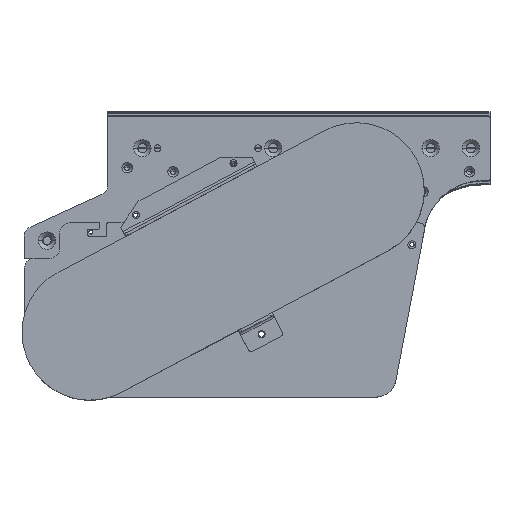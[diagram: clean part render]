
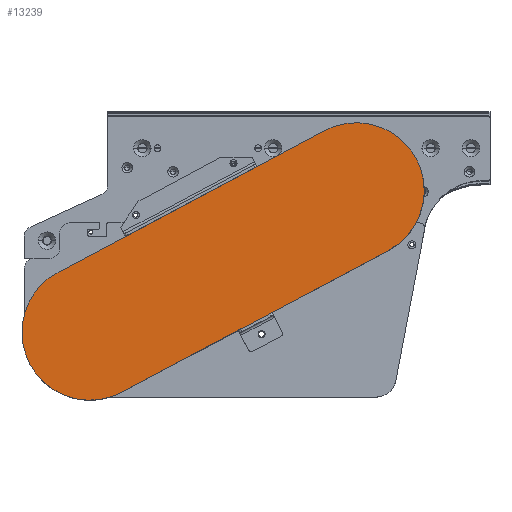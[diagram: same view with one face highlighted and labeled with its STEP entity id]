
A CAD part, top view. The second image highlights one B-rep face of the part: STEP entity #13239.
In plain terms, the highlighted planar face has unit normal (0, 0, 1).
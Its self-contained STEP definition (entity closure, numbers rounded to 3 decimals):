
#159 = DIRECTION ( 'NONE',  ( 1., 0., 0. ) ) ;
#210 = DIRECTION ( 'NONE',  ( 0.883, 0.469, 0. ) ) ;
#360 = AXIS2_PLACEMENT_3D ( 'NONE', #15853, #17673, #16259 ) ;
#672 = CARTESIAN_POINT ( 'NONE',  ( -457.305, -214.794, 103.5 ) ) ;
#697 = VERTEX_POINT ( 'NONE', #7304 ) ;
#762 = DIRECTION ( 'NONE',  ( 1., 0., 0. ) ) ;
#906 = CIRCLE ( 'NONE', #23268, 67.49 ) ;
#1394 = DIRECTION ( 'NONE',  ( 0., 0., 1. ) ) ;
#1541 = CARTESIAN_POINT ( 'NONE',  ( -164.511, 17.336, 103.5 ) ) ;
#1572 = CARTESIAN_POINT ( 'NONE',  ( -101.124, -101.857, 103.5 ) ) ;
#1636 = LINE ( 'NONE', #19727, #17132 ) ;
#2086 = ORIENTED_EDGE ( 'NONE', *, *, #2939, .T. ) ;
#2590 = DIRECTION ( 'NONE',  ( 0.469, -0.883, 0. ) ) ;
#2896 = EDGE_CURVE ( 'NONE', #6975, #697, #3456, .T. ) ;
#2914 = VERTEX_POINT ( 'NONE', #16299 ) ;
#2939 = EDGE_CURVE ( 'NONE', #5435, #6975, #7652, .T. ) ;
#3456 = CIRCLE ( 'NONE', #11780, 67.5 ) ;
#3948 = VERTEX_POINT ( 'NONE', #13203 ) ;
#4074 = CARTESIAN_POINT ( 'NONE',  ( -397.706, -183.105, 103.5 ) ) ;
#4250 = DIRECTION ( 'NONE',  ( 0., 0., 1. ) ) ;
#4625 = VERTEX_POINT ( 'NONE', #9925 ) ;
#4770 = VERTEX_POINT ( 'NONE', #1572 ) ;
#5249 = ORIENTED_EDGE ( 'NONE', *, *, #14743, .T. ) ;
#5298 = EDGE_CURVE ( 'NONE', #697, #19541, #17052, .T. ) ;
#5435 = VERTEX_POINT ( 'NONE', #21738 ) ;
#6571 = AXIS2_PLACEMENT_3D ( 'NONE', #4074, #22122, #19640 ) ;
#6760 = ORIENTED_EDGE ( 'NONE', *, *, #12718, .T. ) ;
#6975 = VERTEX_POINT ( 'NONE', #18569 ) ;
#7044 = EDGE_CURVE ( 'NONE', #2914, #4625, #21251, .T. ) ;
#7082 = VECTOR ( 'NONE', #14396, 1000. ) ;
#7163 = PLANE ( 'NONE',  #10269 ) ;
#7304 = CARTESIAN_POINT ( 'NONE',  ( -164.511, 17.336, 103.5 ) ) ;
#7652 = LINE ( 'NONE', #20017, #7082 ) ;
#8189 = ORIENTED_EDGE ( 'NONE', *, *, #18822, .T. ) ;
#8263 = AXIS2_PLACEMENT_3D ( 'NONE', #22307, #4250, #762 ) ;
#9524 = CARTESIAN_POINT ( 'NONE',  ( -397.71, -183.118, 103.5 ) ) ;
#9918 = FACE_OUTER_BOUND ( 'NONE', #22766, .T. ) ;
#9925 = CARTESIAN_POINT ( 'NONE',  ( -457.305, -214.794, 103.5 ) ) ;
#10269 = AXIS2_PLACEMENT_3D ( 'NONE', #19742, #1394, #14001 ) ;
#10297 = VERTEX_POINT ( 'NONE', #14462 ) ;
#10577 = ORIENTED_EDGE ( 'NONE', *, *, #5298, .T. ) ;
#11443 = DIRECTION ( 'NONE',  ( 1., 0., 0. ) ) ;
#11571 = ORIENTED_EDGE ( 'NONE', *, *, #7044, .T. ) ;
#11780 = AXIS2_PLACEMENT_3D ( 'NONE', #16212, #19760, #159 ) ;
#12287 = VECTOR ( 'NONE', #17678, 1000. ) ;
#12718 = EDGE_CURVE ( 'NONE', #10297, #3948, #906, .T. ) ;
#13203 = CARTESIAN_POINT ( 'NONE',  ( -366.026, -242.708, 103.5 ) ) ;
#13239 = ADVANCED_FACE ( 'NONE', ( #9918 ), #7163, .T. ) ;
#14001 = DIRECTION ( 'NONE',  ( 1., 0., 0. ) ) ;
#14309 = EDGE_CURVE ( 'NONE', #4625, #10297, #15711, .T. ) ;
#14396 = DIRECTION ( 'NONE',  ( -0.469, 0.883, 0. ) ) ;
#14438 = ORIENTED_EDGE ( 'NONE', *, *, #14309, .T. ) ;
#14462 = CARTESIAN_POINT ( 'NONE',  ( -457.3, -214.803, 103.5 ) ) ;
#14645 = DIRECTION ( 'NONE',  ( 0., 0., 1. ) ) ;
#14743 = EDGE_CURVE ( 'NONE', #3948, #4770, #1636, .T. ) ;
#14817 = ORIENTED_EDGE ( 'NONE', *, *, #2896, .T. ) ;
#14878 = CARTESIAN_POINT ( 'NONE',  ( -429.395, -123.506, 103.5 ) ) ;
#15711 = LINE ( 'NONE', #672, #16864 ) ;
#15853 = CARTESIAN_POINT ( 'NONE',  ( -132.808, -42.267, 103.5 ) ) ;
#16212 = CARTESIAN_POINT ( 'NONE',  ( -132.822, -42.263, 103.5 ) ) ;
#16259 = DIRECTION ( 'NONE',  ( 1., 0., 0. ) ) ;
#16299 = CARTESIAN_POINT ( 'NONE',  ( -465.206, -183.105, 103.5 ) ) ;
#16500 = EDGE_CURVE ( 'NONE', #19541, #2914, #16751, .T. ) ;
#16751 = CIRCLE ( 'NONE', #6571, 67.5 ) ;
#16864 = VECTOR ( 'NONE', #2590, 1000. ) ;
#17052 = LINE ( 'NONE', #1541, #12287 ) ;
#17132 = VECTOR ( 'NONE', #210, 1000. ) ;
#17673 = DIRECTION ( 'NONE',  ( 0., 0., 1. ) ) ;
#17678 = DIRECTION ( 'NONE',  ( -0.883, -0.469, 0. ) ) ;
#18569 = CARTESIAN_POINT ( 'NONE',  ( -73.223, -10.574, 103.5 ) ) ;
#18822 = EDGE_CURVE ( 'NONE', #4770, #5435, #19318, .T. ) ;
#19318 = CIRCLE ( 'NONE', #360, 67.49 ) ;
#19541 = VERTEX_POINT ( 'NONE', #14878 ) ;
#19640 = DIRECTION ( 'NONE',  ( 1., 0., 0. ) ) ;
#19727 = CARTESIAN_POINT ( 'NONE',  ( -366.026, -242.708, 103.5 ) ) ;
#19742 = CARTESIAN_POINT ( 'NONE',  ( -132.808, -42.267, 103.5 ) ) ;
#19760 = DIRECTION ( 'NONE',  ( 0., 0., 1. ) ) ;
#20017 = CARTESIAN_POINT ( 'NONE',  ( -73.218, -10.583, 103.5 ) ) ;
#21104 = ORIENTED_EDGE ( 'NONE', *, *, #16500, .T. ) ;
#21251 = CIRCLE ( 'NONE', #8263, 67.5 ) ;
#21738 = CARTESIAN_POINT ( 'NONE',  ( -73.218, -10.583, 103.5 ) ) ;
#22122 = DIRECTION ( 'NONE',  ( 0., 0., 1. ) ) ;
#22307 = CARTESIAN_POINT ( 'NONE',  ( -397.706, -183.105, 103.5 ) ) ;
#22766 = EDGE_LOOP ( 'NONE', ( #8189, #2086, #14817, #10577, #21104, #11571, #14438, #6760, #5249 ) ) ;
#23268 = AXIS2_PLACEMENT_3D ( 'NONE', #9524, #14645, #11443 ) ;
